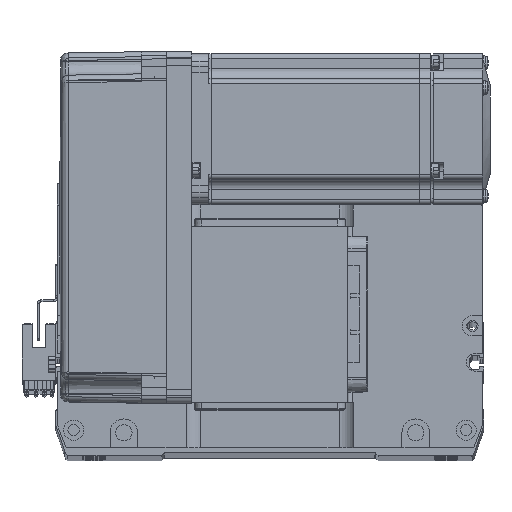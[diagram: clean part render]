
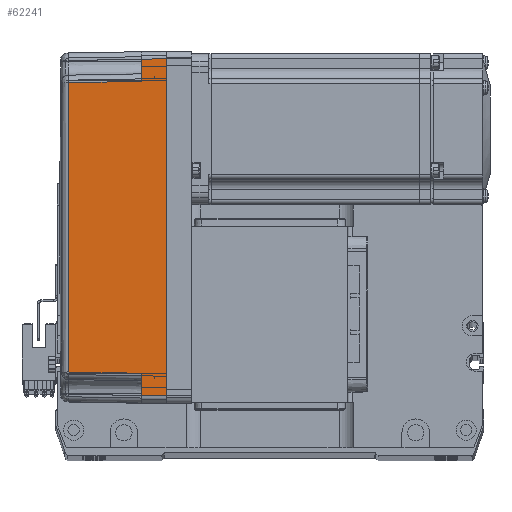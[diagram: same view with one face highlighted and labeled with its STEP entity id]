
A CAD part, top view. The second image highlights one B-rep face of the part: STEP entity #62241.
In plain terms, the highlighted planar face has unit normal (-0.018, 0, 1) as drawn and (0, 1, 0.017) by its records, which use the part's own axes.
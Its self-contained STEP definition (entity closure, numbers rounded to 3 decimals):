
#136 = EDGE_CURVE ( 'NONE', #29670, #27114, #3119, .T. ) ;
#153 = VERTEX_POINT ( 'NONE', #39730 ) ;
#628 = CARTESIAN_POINT ( 'NONE',  ( 58., 35.825, 10. ) ) ;
#2635 = CARTESIAN_POINT ( 'NONE',  ( -58., 35.825, 10. ) ) ;
#2673 = FACE_OUTER_BOUND ( 'NONE', #63356, .T. ) ;
#3119 = B_SPLINE_CURVE_WITH_KNOTS ( 'NONE', 3,
 ( #38877, #58465, #54336, #39504 ),
 .UNSPECIFIED., .F., .F.,
 ( 4, 4 ),
 ( 0., 1. ),
 .UNSPECIFIED. ) ;
#3663 = ORIENTED_EDGE ( 'NONE', *, *, #32718, .T. ) ;
#4231 = CARTESIAN_POINT ( 'NONE',  ( -67., 36., 0. ) ) ;
#4767 = PLANE ( 'NONE',  #39636 ) ;
#6101 = ORIENTED_EDGE ( 'NONE', *, *, #22870, .T. ) ;
#7553 = EDGE_CURVE ( 'NONE', #21035, #32935, #36364, .T. ) ;
#8646 = DIRECTION ( 'NONE',  ( 1., 0., 0. ) ) ;
#9453 = CARTESIAN_POINT ( 'NONE',  ( 0., 36., 0. ) ) ;
#10427 = DIRECTION ( 'NONE',  ( 0.017, -0.017, 1. ) ) ;
#11972 = LINE ( 'NONE', #34737, #16609 ) ;
#13222 = ORIENTED_EDGE ( 'NONE', *, *, #28974, .F. ) ;
#14128 = DIRECTION ( 'NONE',  ( -0.017, -0.017, 1. ) ) ;
#14284 = ORIENTED_EDGE ( 'NONE', *, *, #42061, .T. ) ;
#14516 = LINE ( 'NONE', #25480, #24519 ) ;
#15589 = VECTOR ( 'NONE', #47955, 1000. ) ;
#15824 = DIRECTION ( 'NONE',  ( 0.017, -0.017, 1. ) ) ;
#16142 = ORIENTED_EDGE ( 'NONE', *, *, #35838, .T. ) ;
#16609 = VECTOR ( 'NONE', #10427, 1000. ) ;
#18850 = CARTESIAN_POINT ( 'NONE',  ( 67.001, 36.001, -0.052 ) ) ;
#21035 = VERTEX_POINT ( 'NONE', #4231 ) ;
#22870 = EDGE_CURVE ( 'NONE', #55548, #52579, #51937, .T. ) ;
#24305 = CARTESIAN_POINT ( 'NONE',  ( 67., 36., 0. ) ) ;
#24519 = VECTOR ( 'NONE', #15824, 1000. ) ;
#25480 = CARTESIAN_POINT ( 'NONE',  ( -67., 36., 0. ) ) ;
#27114 = VERTEX_POINT ( 'NONE', #36129 ) ;
#27305 = DIRECTION ( 'NONE',  ( 0.017, 0.017, -1. ) ) ;
#27379 = ORIENTED_EDGE ( 'NONE', *, *, #136, .T. ) ;
#28974 = EDGE_CURVE ( 'NONE', #32935, #52579, #50386, .T. ) ;
#29670 = VERTEX_POINT ( 'NONE', #60508 ) ;
#29767 = DIRECTION ( 'NONE',  ( 0., 1., 0.017 ) ) ;
#32718 = EDGE_CURVE ( 'NONE', #27114, #55548, #42371, .T. ) ;
#32935 = VERTEX_POINT ( 'NONE', #24305 ) ;
#34737 = CARTESIAN_POINT ( 'NONE',  ( -58., 35.825, 10. ) ) ;
#35838 = EDGE_CURVE ( 'NONE', #63552, #29670, #11972, .T. ) ;
#36129 = CARTESIAN_POINT ( 'NONE',  ( 57.495, 35.32, 38.985 ) ) ;
#36364 = LINE ( 'NONE', #9453, #15589 ) ;
#38524 = LINE ( 'NONE', #43735, #45397 ) ;
#38533 = CARTESIAN_POINT ( 'NONE',  ( 66.826, 35.825, 10. ) ) ;
#38877 = CARTESIAN_POINT ( 'NONE',  ( -57.495, 35.32, 38.985 ) ) ;
#39504 = CARTESIAN_POINT ( 'NONE',  ( 57.495, 35.32, 38.985 ) ) ;
#39636 = AXIS2_PLACEMENT_3D ( 'NONE', #63767, #29767, #49328 ) ;
#39730 = CARTESIAN_POINT ( 'NONE',  ( -66.826, 35.825, 10. ) ) ;
#42061 = EDGE_CURVE ( 'NONE', #21035, #153, #14516, .T. ) ;
#42371 = LINE ( 'NONE', #51839, #53132 ) ;
#43735 = CARTESIAN_POINT ( 'NONE',  ( 70., 35.825, 10. ) ) ;
#45397 = VECTOR ( 'NONE', #8646, 1000. ) ;
#47320 = ORIENTED_EDGE ( 'NONE', *, *, #7553, .F. ) ;
#47955 = DIRECTION ( 'NONE',  ( 1., 0., 0. ) ) ;
#49328 = DIRECTION ( 'NONE',  ( 0., -0.017, 1. ) ) ;
#50386 = LINE ( 'NONE', #18850, #51932 ) ;
#50391 = VECTOR ( 'NONE', #60850, 1000. ) ;
#51839 = CARTESIAN_POINT ( 'NONE',  ( 57.495, 35.32, 38.985 ) ) ;
#51932 = VECTOR ( 'NONE', #14128, 1000. ) ;
#51937 = LINE ( 'NONE', #55939, #50391 ) ;
#52240 = EDGE_CURVE ( 'NONE', #153, #63552, #38524, .T. ) ;
#52579 = VERTEX_POINT ( 'NONE', #38533 ) ;
#53132 = VECTOR ( 'NONE', #27305, 1000. ) ;
#54336 = CARTESIAN_POINT ( 'NONE',  ( 19.165, 35.316, 39.181 ) ) ;
#55548 = VERTEX_POINT ( 'NONE', #628 ) ;
#55939 = CARTESIAN_POINT ( 'NONE',  ( 70., 35.825, 10. ) ) ;
#58465 = CARTESIAN_POINT ( 'NONE',  ( -19.165, 35.316, 39.181 ) ) ;
#60508 = CARTESIAN_POINT ( 'NONE',  ( -57.495, 35.32, 38.985 ) ) ;
#60850 = DIRECTION ( 'NONE',  ( 1., 0., 0. ) ) ;
#60993 = ORIENTED_EDGE ( 'NONE', *, *, #52240, .T. ) ;
#62241 = ADVANCED_FACE ( 'NONE', ( #2673 ), #4767, .T. ) ;
#63356 = EDGE_LOOP ( 'NONE', ( #14284, #60993, #16142, #27379, #3663, #6101, #13222, #47320 ) ) ;
#63552 = VERTEX_POINT ( 'NONE', #2635 ) ;
#63767 = CARTESIAN_POINT ( 'NONE',  ( 70., 36., 0. ) ) ;
